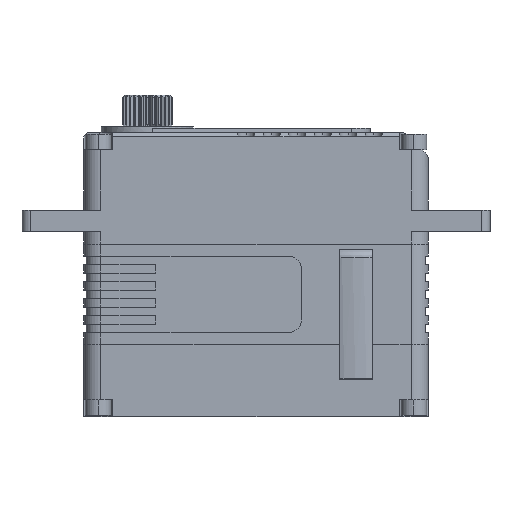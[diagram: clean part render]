
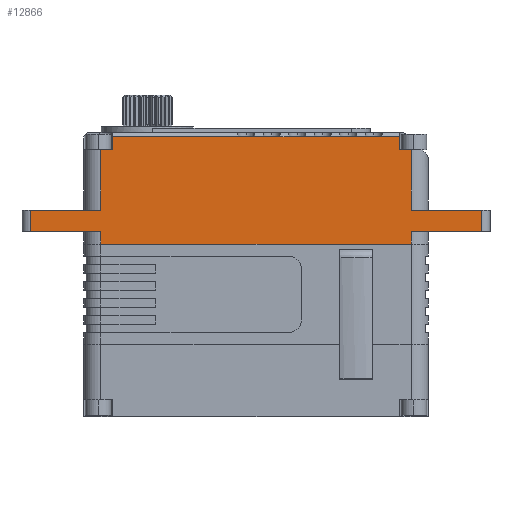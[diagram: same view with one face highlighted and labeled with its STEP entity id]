
A CAD part, front view. The second image highlights one B-rep face of the part: STEP entity #12866.
In plain terms, the highlighted planar face has unit normal (0, -1, 0).
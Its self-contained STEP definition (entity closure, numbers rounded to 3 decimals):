
#280 = CARTESIAN_POINT ( 'NONE',  ( -80.721, -2.37, 14.8 ) ) ;
#323 = CARTESIAN_POINT ( 'NONE',  ( -47.021, -2.37, 14.8 ) ) ;
#667 = DIRECTION ( 'NONE',  ( -1., 0., 0. ) ) ;
#1034 = AXIS2_PLACEMENT_3D ( 'NONE', #25853, #21575, #23699 ) ;
#1142 = VERTEX_POINT ( 'NONE', #15338 ) ;
#1396 = VERTEX_POINT ( 'NONE', #27780 ) ;
#2168 = EDGE_CURVE ( 'NONE', #25231, #27178, #25025, .T. ) ;
#2793 = LINE ( 'NONE', #323, #15887 ) ;
#2866 = VECTOR ( 'NONE', #7897, 1000. ) ;
#3019 = CIRCLE ( 'NONE', #1034, 0.5 ) ;
#3159 = VECTOR ( 'NONE', #18259, 1000. ) ;
#3579 = LINE ( 'NONE', #8323, #25644 ) ;
#3723 = ORIENTED_EDGE ( 'NONE', *, *, #15982, .T. ) ;
#4414 = ORIENTED_EDGE ( 'NONE', *, *, #26259, .F. ) ;
#4483 = DIRECTION ( 'NONE',  ( -1., 0., 0. ) ) ;
#4519 = LINE ( 'NONE', #7600, #3159 ) ;
#4635 = VECTOR ( 'NONE', #21597, 1000. ) ;
#4707 = EDGE_CURVE ( 'NONE', #23707, #9184, #3019, .T. ) ;
#4934 = DIRECTION ( 'NONE',  ( -1., 0., 0. ) ) ;
#4935 = DIRECTION ( 'NONE',  ( 0., 0., -1. ) ) ;
#5364 = ORIENTED_EDGE ( 'NONE', *, *, #26469, .F. ) ;
#6041 = VECTOR ( 'NONE', #4934, 1000. ) ;
#6103 = LINE ( 'NONE', #18168, #16805 ) ;
#6863 = LINE ( 'NONE', #19243, #11611 ) ;
#6917 = LINE ( 'NONE', #9971, #2866 ) ;
#7424 = CARTESIAN_POINT ( 'NONE',  ( -80.721, -2.37, 16.8 ) ) ;
#7600 = CARTESIAN_POINT ( 'NONE',  ( -82.121, -2.37, 3.7 ) ) ;
#7897 = DIRECTION ( 'NONE',  ( -1., 0., 0. ) ) ;
#8153 = LINE ( 'NONE', #17382, #18845 ) ;
#8323 = CARTESIAN_POINT ( 'NONE',  ( -91.371, -2.37, 7.7 ) ) ;
#8574 = CARTESIAN_POINT ( 'NONE',  ( -47.021, -2.37, 14.8 ) ) ;
#8883 = VERTEX_POINT ( 'NONE', #280 ) ;
#9184 = VERTEX_POINT ( 'NONE', #13578 ) ;
#9520 = DIRECTION ( 'NONE',  ( 0., 0., -1. ) ) ;
#9584 = DIRECTION ( 'NONE',  ( 0., 0., -1. ) ) ;
#9971 = CARTESIAN_POINT ( 'NONE',  ( -45.676, -2.37, 5.2 ) ) ;
#10289 = VECTOR ( 'NONE', #9520, 1000. ) ;
#11027 = DIRECTION ( 'NONE',  ( 1., 0., 0. ) ) ;
#11336 = LINE ( 'NONE', #13567, #22649 ) ;
#11350 = CARTESIAN_POINT ( 'NONE',  ( -44.338, -2.37, 14.8 ) ) ;
#11611 = VECTOR ( 'NONE', #11027, 1000. ) ;
#11736 = EDGE_CURVE ( 'NONE', #15776, #18309, #8153, .T. ) ;
#11772 = DIRECTION ( 'NONE',  ( 0., 0., -1. ) ) ;
#12010 = LINE ( 'NONE', #24690, #10289 ) ;
#12289 = ORIENTED_EDGE ( 'NONE', *, *, #18524, .T. ) ;
#12474 = DIRECTION ( 'NONE',  ( 0., 1., 0. ) ) ;
#12660 = EDGE_CURVE ( 'NONE', #16468, #21685, #22388, .T. ) ;
#12712 = LINE ( 'NONE', #7424, #17721 ) ;
#12846 = VERTEX_POINT ( 'NONE', #25400 ) ;
#12866 = ADVANCED_FACE ( 'NONE', ( #25005 ), #27797, .F. ) ;
#13206 = EDGE_CURVE ( 'NONE', #17886, #23707, #25946, .T. ) ;
#13408 = CARTESIAN_POINT ( 'NONE',  ( -45.621, -2.37, 3.7 ) ) ;
#13567 = CARTESIAN_POINT ( 'NONE',  ( -91.371, -2.37, 5.2 ) ) ;
#13578 = CARTESIAN_POINT ( 'NONE',  ( -47.021, -2.37, 16.3 ) ) ;
#13665 = LINE ( 'NONE', #17314, #14330 ) ;
#14330 = VECTOR ( 'NONE', #4483, 1000. ) ;
#14543 = CARTESIAN_POINT ( 'NONE',  ( -45.621, -2.37, 3.7 ) ) ;
#14766 = EDGE_CURVE ( 'NONE', #14982, #21685, #6863, .T. ) ;
#14783 = ORIENTED_EDGE ( 'NONE', *, *, #24119, .F. ) ;
#14982 = VERTEX_POINT ( 'NONE', #16150 ) ;
#15081 = CARTESIAN_POINT ( 'NONE',  ( -45.621, -2.37, 7.7 ) ) ;
#15163 = ORIENTED_EDGE ( 'NONE', *, *, #13206, .F. ) ;
#15308 = VECTOR ( 'NONE', #22526, 1000. ) ;
#15338 = CARTESIAN_POINT ( 'NONE',  ( -82.121, -2.37, 7.7 ) ) ;
#15429 = DIRECTION ( 'NONE',  ( 0., 0., 1. ) ) ;
#15552 = VECTOR ( 'NONE', #11772, 1000. ) ;
#15708 = ORIENTED_EDGE ( 'NONE', *, *, #18935, .T. ) ;
#15732 = CARTESIAN_POINT ( 'NONE',  ( -82.121, -2.37, 5.2 ) ) ;
#15776 = VERTEX_POINT ( 'NONE', #21205 ) ;
#15887 = VECTOR ( 'NONE', #4935, 1000. ) ;
#15982 = EDGE_CURVE ( 'NONE', #27205, #16853, #27450, .T. ) ;
#15989 = ORIENTED_EDGE ( 'NONE', *, *, #12660, .F. ) ;
#16150 = CARTESIAN_POINT ( 'NONE',  ( -82.121, -2.37, 3.7 ) ) ;
#16187 = ORIENTED_EDGE ( 'NONE', *, *, #4707, .F. ) ;
#16468 = VERTEX_POINT ( 'NONE', #20251 ) ;
#16805 = VECTOR ( 'NONE', #22449, 1000. ) ;
#16853 = VERTEX_POINT ( 'NONE', #8574 ) ;
#17314 = CARTESIAN_POINT ( 'NONE',  ( -80.721, -2.37, 14.8 ) ) ;
#17382 = CARTESIAN_POINT ( 'NONE',  ( -90.371, -2.37, 3.7 ) ) ;
#17442 = VERTEX_POINT ( 'NONE', #15732 ) ;
#17645 = CARTESIAN_POINT ( 'NONE',  ( -80.721, -2.37, 16.3 ) ) ;
#17721 = VECTOR ( 'NONE', #9584, 1000. ) ;
#17761 = ORIENTED_EDGE ( 'NONE', *, *, #14766, .T. ) ;
#17886 = VERTEX_POINT ( 'NONE', #17645 ) ;
#18168 = CARTESIAN_POINT ( 'NONE',  ( -82.121, -2.37, 3.7 ) ) ;
#18259 = DIRECTION ( 'NONE',  ( 0., 0., 1. ) ) ;
#18309 = VERTEX_POINT ( 'NONE', #23181 ) ;
#18524 = EDGE_CURVE ( 'NONE', #17886, #8883, #12712, .T. ) ;
#18609 = DIRECTION ( 'NONE',  ( 0., 0., -1. ) ) ;
#18621 = ORIENTED_EDGE ( 'NONE', *, *, #11736, .F. ) ;
#18845 = VECTOR ( 'NONE', #15429, 1000. ) ;
#18935 = EDGE_CURVE ( 'NONE', #8883, #1396, #13665, .T. ) ;
#18993 = DIRECTION ( 'NONE',  ( 0., 0., 1. ) ) ;
#19243 = CARTESIAN_POINT ( 'NONE',  ( -43.621, -2.37, 3.7 ) ) ;
#19584 = AXIS2_PLACEMENT_3D ( 'NONE', #23075, #12474, #18993 ) ;
#19821 = EDGE_LOOP ( 'NONE', ( #16187, #15163, #12289, #15708, #14783, #21580, #18621, #4414, #24897, #17761, #15989, #5364, #26861, #24939, #24989, #3723, #22785 ) ) ;
#20211 = LINE ( 'NONE', #26953, #15552 ) ;
#20251 = CARTESIAN_POINT ( 'NONE',  ( -45.621, -2.37, 5.2 ) ) ;
#21205 = CARTESIAN_POINT ( 'NONE',  ( -90.371, -2.37, 5.2 ) ) ;
#21433 = EDGE_CURVE ( 'NONE', #14982, #17442, #4519, .T. ) ;
#21575 = DIRECTION ( 'NONE',  ( 0., 1., 0. ) ) ;
#21580 = ORIENTED_EDGE ( 'NONE', *, *, #25570, .T. ) ;
#21597 = DIRECTION ( 'NONE',  ( -1., 0., 0. ) ) ;
#21685 = VERTEX_POINT ( 'NONE', #13408 ) ;
#21714 = VECTOR ( 'NONE', #18609, 1000. ) ;
#21805 = EDGE_CURVE ( 'NONE', #9184, #16853, #2793, .T. ) ;
#22388 = LINE ( 'NONE', #14543, #21714 ) ;
#22449 = DIRECTION ( 'NONE',  ( 0., 0., 1. ) ) ;
#22526 = DIRECTION ( 'NONE',  ( 1., 0., 0. ) ) ;
#22649 = VECTOR ( 'NONE', #667, 1000. ) ;
#22785 = ORIENTED_EDGE ( 'NONE', *, *, #21805, .F. ) ;
#23075 = CARTESIAN_POINT ( 'NONE',  ( -90.371, -2.37, 3.7 ) ) ;
#23181 = CARTESIAN_POINT ( 'NONE',  ( -90.371, -2.37, 7.7 ) ) ;
#23695 = EDGE_CURVE ( 'NONE', #25231, #12846, #20211, .T. ) ;
#23699 = DIRECTION ( 'NONE',  ( 0., 0., 1. ) ) ;
#23707 = VERTEX_POINT ( 'NONE', #25699 ) ;
#24119 = EDGE_CURVE ( 'NONE', #1142, #1396, #6103, .T. ) ;
#24690 = CARTESIAN_POINT ( 'NONE',  ( -45.621, -2.37, 7.7 ) ) ;
#24897 = ORIENTED_EDGE ( 'NONE', *, *, #21433, .F. ) ;
#24939 = ORIENTED_EDGE ( 'NONE', *, *, #2168, .T. ) ;
#24989 = ORIENTED_EDGE ( 'NONE', *, *, #26298, .F. ) ;
#25005 = FACE_OUTER_BOUND ( 'NONE', #19821, .T. ) ;
#25025 = LINE ( 'NONE', #25877, #4635 ) ;
#25231 = VERTEX_POINT ( 'NONE', #26175 ) ;
#25400 = CARTESIAN_POINT ( 'NONE',  ( -37.371, -2.37, 5.2 ) ) ;
#25570 = EDGE_CURVE ( 'NONE', #1142, #18309, #3579, .T. ) ;
#25644 = VECTOR ( 'NONE', #27576, 1000. ) ;
#25699 = CARTESIAN_POINT ( 'NONE',  ( -47.035, -2.37, 16.3 ) ) ;
#25853 = CARTESIAN_POINT ( 'NONE',  ( -47.035, -2.37, 15.8 ) ) ;
#25877 = CARTESIAN_POINT ( 'NONE',  ( -45.676, -2.37, 7.7 ) ) ;
#25946 = LINE ( 'NONE', #26627, #15308 ) ;
#26175 = CARTESIAN_POINT ( 'NONE',  ( -37.371, -2.37, 7.7 ) ) ;
#26259 = EDGE_CURVE ( 'NONE', #17442, #15776, #11336, .T. ) ;
#26298 = EDGE_CURVE ( 'NONE', #27205, #27178, #12010, .T. ) ;
#26469 = EDGE_CURVE ( 'NONE', #12846, #16468, #6917, .T. ) ;
#26627 = CARTESIAN_POINT ( 'NONE',  ( -90.371, -2.37, 16.3 ) ) ;
#26861 = ORIENTED_EDGE ( 'NONE', *, *, #23695, .F. ) ;
#26953 = CARTESIAN_POINT ( 'NONE',  ( -37.371, -2.37, 3.7 ) ) ;
#27178 = VERTEX_POINT ( 'NONE', #15081 ) ;
#27205 = VERTEX_POINT ( 'NONE', #27582 ) ;
#27450 = LINE ( 'NONE', #11350, #6041 ) ;
#27576 = DIRECTION ( 'NONE',  ( -1., 0., 0. ) ) ;
#27582 = CARTESIAN_POINT ( 'NONE',  ( -45.621, -2.37, 14.8 ) ) ;
#27780 = CARTESIAN_POINT ( 'NONE',  ( -82.121, -2.37, 14.8 ) ) ;
#27797 = PLANE ( 'NONE',  #19584 ) ;
